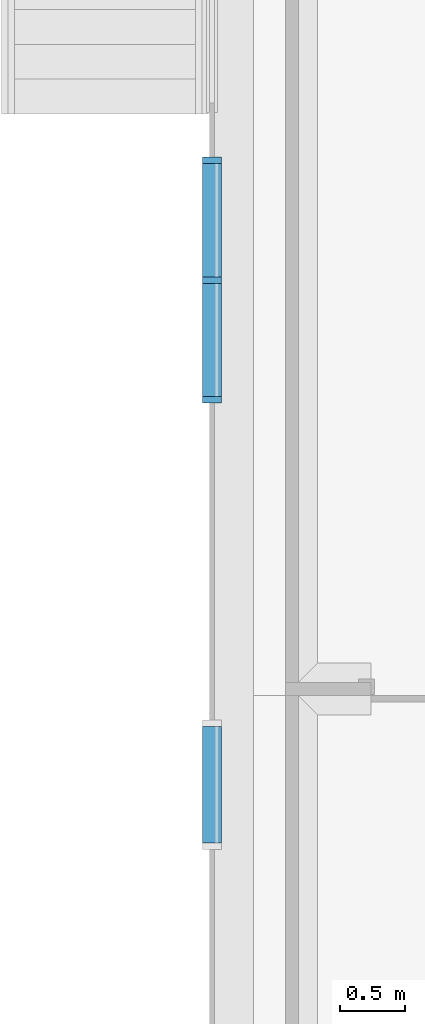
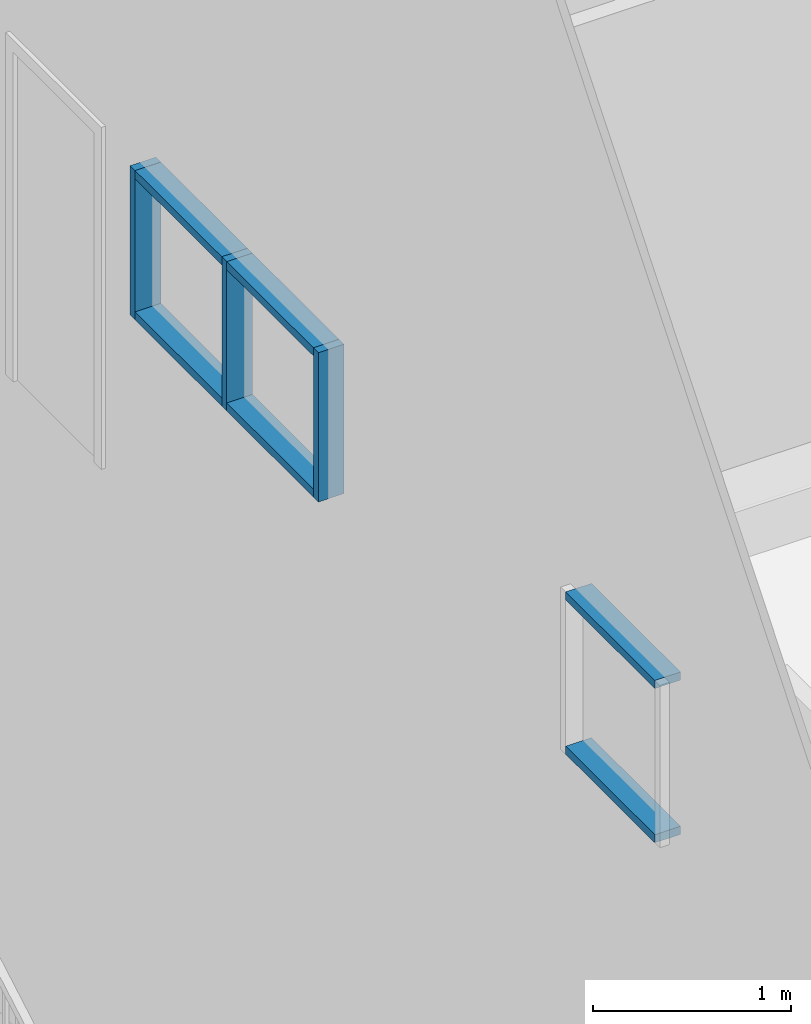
# One storey, part 7 of 64: 9 members, 2 elements without a shape of their own.
"""IFC2X3 building model written with IfcOpenShell, lengths in millimetres."""

from ifc_helpers import new_model, entity, si_unit, converted_unit, derived_unit, direction, frame, frame_2d, origin, origin_2d_with_axis, place, context, subcontext, project, spatial, rectangle, extrude, material, type_object, element, aggregate, save


model = new_model("IFC2X3")

# Units and contexts
model_context = context("Model", 3, precision=0.01, world=origin(), true_north=direction((4.05803320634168e-15, -1.0)))
body_context = subcontext(model_context, "Body", "Model", "MODEL_VIEW")
ifc_project = project(units=[si_unit("LENGTHUNIT", "METRE", prefix="MILLI"), si_unit("AREAUNIT", "SQUARE_METRE"), si_unit("VOLUMEUNIT", "CUBIC_METRE"), converted_unit("PLANEANGLEUNIT", "DEGREE", entity("IfcRatioMeasure", 0.0174532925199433), si_unit("PLANEANGLEUNIT", "RADIAN"), dimensions=[0, 0, 0, 0, 0, 0, 0]), si_unit("MASSUNIT", "GRAM", prefix="KILO"), derived_unit("MASSDENSITYUNIT", [(si_unit("MASSUNIT", "GRAM", prefix="KILO"), 1), (si_unit("LENGTHUNIT", "METRE"), -3)]), si_unit("TIMEUNIT", "SECOND"), si_unit("FREQUENCYUNIT", "HERTZ"), si_unit("THERMODYNAMICTEMPERATUREUNIT", "DEGREE_CELSIUS"), derived_unit("THERMALTRANSMITTANCEUNIT", [(si_unit("MASSUNIT", "GRAM", prefix="KILO"), 1), (si_unit("THERMODYNAMICTEMPERATUREUNIT", "KELVIN"), -1), (si_unit("TIMEUNIT", "SECOND"), -3)]), derived_unit("VOLUMETRICFLOWRATEUNIT", [(si_unit("LENGTHUNIT", "METRE"), 3), (si_unit("TIMEUNIT", "SECOND"), -1)]), si_unit("ELECTRICCURRENTUNIT", "AMPERE"), si_unit("ELECTRICVOLTAGEUNIT", "VOLT"), si_unit("POWERUNIT", "WATT"), si_unit("FORCEUNIT", "NEWTON", prefix="KILO"), si_unit("ILLUMINANCEUNIT", "LUX"), si_unit("LUMINOUSFLUXUNIT", "LUMEN"), si_unit("LUMINOUSINTENSITYUNIT", "CANDELA"), derived_unit("USERDEFINED", [(si_unit("MASSUNIT", "GRAM", prefix="KILO"), -1), (si_unit("LENGTHUNIT", "METRE"), -2), (si_unit("TIMEUNIT", "SECOND"), 3), (si_unit("LUMINOUSFLUXUNIT", "LUMEN"), 1)]), derived_unit("LINEARVELOCITYUNIT", [(si_unit("LENGTHUNIT", "METRE"), 1), (si_unit("TIMEUNIT", "SECOND"), -1)]), si_unit("PRESSUREUNIT", "PASCAL"), derived_unit("USERDEFINED", [(si_unit("LENGTHUNIT", "METRE"), -2), (si_unit("MASSUNIT", "GRAM", prefix="KILO"), 1), (si_unit("TIMEUNIT", "SECOND"), -2)])], contexts=[model_context])

# Site, building, storey
site_placement = place(None, frame((927466.849349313, 583801.882853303, 0.0), z_axis=(0.0, 0.0, 1.0), x_axis=(-1.0, 0.0, 0.0)))
site = spatial("IfcSite", under=ifc_project, at=site_placement, Name="Surface", CompositionType="ELEMENT")
building_placement = place(site_placement, origin())
building = spatial("IfcBuilding", under=site, at=building_placement, CompositionType="ELEMENT")
storey_placement = place(building_placement, frame((0.0, 0.0, 44170.0)))
storey = spatial("IfcBuildingStorey", under=building, at=storey_placement, Name="Ground FFL", CompositionType="ELEMENT", Elevation=44170.0)

# Curtain wall, members
curtain_wall_type = type_object("IfcCurtainWallType", Name="Curtain Wall:Storefront", PredefinedType="NOTDEFINED")
curtain_wall_1_placement = place(storey_placement, frame((0.0, 0.0, -44170.0)))
curtain_wall_1 = element("IfcCurtainWall", 1, at=curtain_wall_1_placement, inside=storey, type_object=curtain_wall_type, Name="Curtain Wall:Storefront", ObjectType="Curtain Wall:Storefront")
ifc_material = material(Name="Aluminium")
member_1_placement = place(curtain_wall_1_placement, frame((0.0, 0.0, 44170.0)))
member_1 = element("IfcMember", 2, at=member_1_placement, material=ifc_material, Name="Curtain Wall:Storefront:8486", ObjectType="Curtain Wall:Storefront:8486", context=body_context, shape_type="SweptSolid", body=[
    extrude(rectangle(XDim=49.9999999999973, YDim=150.000000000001, at=frame_2d((4.33253433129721e-12, 0.0), x_axis=(1.0, 0.0))), frame((-80781.59177989, 20199.2777512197, 6065.539651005), z_axis=(0.0, -1.0, 0.0), x_axis=(0.0, 0.0, -1.0)), (0.0, 0.0, 1.0), 875.0),
])
member_2_placement = place(curtain_wall_1_placement, frame((0.0, 0.0, 44170.0)))
member_2 = element("IfcMember", 3, at=member_2_placement, material=ifc_material, Name="Curtain Wall:Storefront:8486", ObjectType="Curtain Wall:Storefront:8486", context=body_context, shape_type="SweptSolid", body=[
    extrude(rectangle(XDim=49.9999999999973, YDim=150.000000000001, at=frame_2d((-4.33253433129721e-12, 0.0), x_axis=(1.0, 0.0))), frame((-80781.59177989, 18399.2777512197, 5195.53965100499), z_axis=(0.0, 1.0, 0.0), x_axis=(0.0, 0.0, -1.0)), (0.0, 0.0, 1.0), 874.999999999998),
])
member_3_placement = place(curtain_wall_1_placement, frame((0.0, 0.0, 44170.0)))
member_3 = element("IfcMember", 4, at=member_3_placement, material=ifc_material, Name="Curtain Wall:Storefront:8486", ObjectType="Curtain Wall:Storefront:8486", context=body_context, shape_type="SweptSolid", body=[
    extrude(rectangle(XDim=150.000000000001, YDim=50.0000000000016, at=frame_2d((0.0, 2.16715534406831e-12), x_axis=(1.0, 0.0))), frame((-80781.59177989, 20224.2777512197, 5170.539651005), z_axis=(0.0, 0.0, 1.0), x_axis=(-1.0, 0.0, 0.0)), (0.0, 0.0, 1.0), 919.999999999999),
])
member_4_placement = place(curtain_wall_1_placement, frame((0.0, 0.0, 44170.0)))
member_4 = element("IfcMember", 5, at=member_4_placement, material=ifc_material, Name="Curtain Wall:Storefront:8486", ObjectType="Curtain Wall:Storefront:8486", context=body_context, shape_type="SweptSolid", body=[
    extrude(rectangle(XDim=150.000000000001, YDim=49.9999999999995, at=frame_2d((0.0, -1.08357767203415e-12), x_axis=(1.0, 0.0))), frame((-80781.59177989, 18374.2777512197, 6090.539651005), z_axis=(0.0, 0.0, -1.0), x_axis=(-1.0, 0.0, 0.0)), (0.0, 0.0, 1.0), 919.999999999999),
])
member_5_placement = place(curtain_wall_1_placement, frame((0.0, 0.0, 44170.0)))
member_5 = element("IfcMember", 6, at=member_5_placement, material=ifc_material, Name="Curtain Wall:Storefront:8486", ObjectType="Curtain Wall:Storefront:8486", context=body_context, shape_type="SweptSolid", body=[
    extrude(rectangle(XDim=49.9999999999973, YDim=150.000000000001, at=frame_2d((4.33253433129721e-12, 0.0), x_axis=(1.0, 0.0))), frame((-80781.59177989, 19274.2777512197, 6065.539651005), z_axis=(0.0, -1.0, 0.0), x_axis=(0.0, 0.0, -1.0)), (0.0, 0.0, 1.0), 875.0),
])
member_6_placement = place(curtain_wall_1_placement, frame((0.0, 0.0, 44170.0)))
member_6 = element("IfcMember", 7, at=member_6_placement, material=ifc_material, Name="Curtain Wall:Storefront:8486", ObjectType="Curtain Wall:Storefront:8486", context=body_context, shape_type="SweptSolid", body=[
    extrude(rectangle(XDim=49.9999999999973, YDim=150.000000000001, at=frame_2d((-4.33253433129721e-12, 0.0), x_axis=(1.0, 0.0))), frame((-80781.59177989, 19324.2777512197, 5195.53965100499), z_axis=(0.0, 1.0, 0.0), x_axis=(0.0, 0.0, -1.0)), (0.0, 0.0, 1.0), 874.999999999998),
])
member_7_placement = place(curtain_wall_1_placement, frame((0.0, 0.0, 44170.0)))
member_7 = element("IfcMember", 8, at=member_7_placement, material=ifc_material, Name="Curtain Wall:Storefront:8486", ObjectType="Curtain Wall:Storefront:8486", context=body_context, shape_type="SweptSolid", body=[
    extrude(rectangle(XDim=150.000000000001, YDim=50.0000000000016, at=origin_2d_with_axis()), frame((-80781.59177989, 19299.2777512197, 5170.539651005), z_axis=(0.0, 0.0, 1.0), x_axis=(-1.0, 0.0, 0.0)), (0.0, 0.0, 1.0), 919.999999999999),
])
aggregate(curtain_wall_1, [member_1, member_2, member_3, member_4, member_5, member_6, member_7])

curtain_wall_2_placement = place(storey_placement, frame((0.0, 0.0, -44170.0)))
curtain_wall_2 = element("IfcCurtainWall", 9, at=curtain_wall_2_placement, inside=storey, type_object=curtain_wall_type, Name="Curtain Wall:Storefront", ObjectType="Curtain Wall:Storefront")
member_8_placement = place(curtain_wall_2_placement, frame((0.0, 0.0, 44170.0)))
member_8 = element("IfcMember", 10, at=member_8_placement, material=ifc_material, Name="Curtain Wall:Storefront:8486", ObjectType="Curtain Wall:Storefront:8486", context=body_context, shape_type="SweptSolid", body=[
    extrude(rectangle(XDim=49.9999999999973, YDim=150.000000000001, at=frame_2d((-4.33253433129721e-12, 0.0), x_axis=(1.0, 0.0))), frame((-80781.59177989, 23644.7192501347, 6105.53965100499), z_axis=(0.0, -1.0, 0.0), x_axis=(0.0, 0.0, -1.0)), (0.0, 0.0, 1.0), 899.999999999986),
])
member_9_placement = place(curtain_wall_2_placement, frame((0.0, 0.0, 44170.0)))
member_9 = element("IfcMember", 11, at=member_9_placement, material=ifc_material, Name="Curtain Wall:Storefront:8486", ObjectType="Curtain Wall:Storefront:8486", context=body_context, shape_type="SweptSolid", body=[
    extrude(rectangle(XDim=49.9999999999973, YDim=150.000000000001, at=frame_2d((4.33253433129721e-12, 0.0), x_axis=(1.0, 0.0))), frame((-80781.59177989, 22744.7192501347, 5155.539651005), z_axis=(0.0, 1.0, 0.0), x_axis=(0.0, 0.0, -1.0)), (0.0, 0.0, 1.0), 899.999999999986),
])
aggregate(curtain_wall_2, [member_8, member_9])

save(model, "model.ifc")
